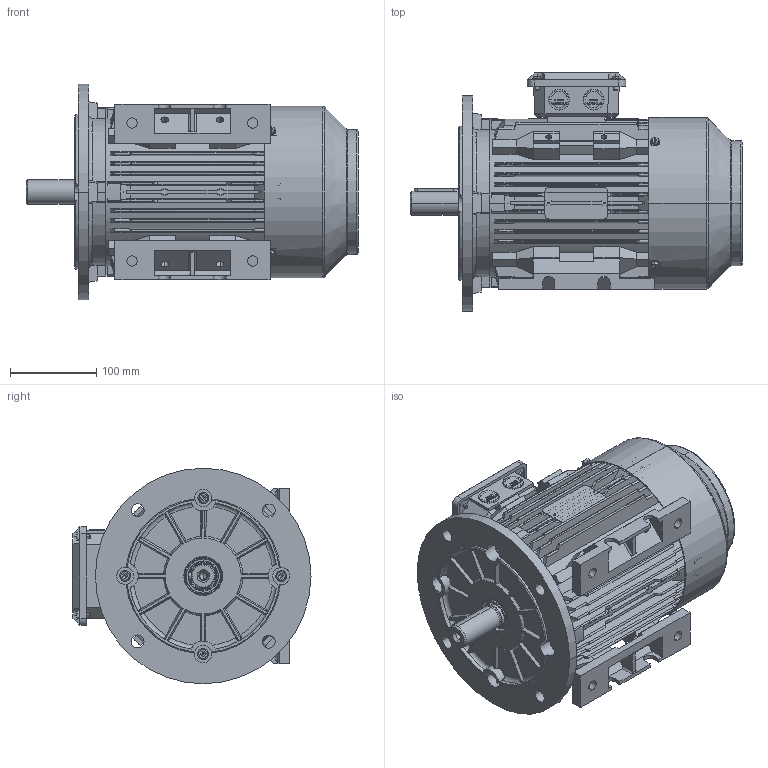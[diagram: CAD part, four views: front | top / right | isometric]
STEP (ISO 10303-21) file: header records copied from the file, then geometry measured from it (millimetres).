
FILE_DESCRIPTION (( 'STEP AP214' ), '1' );
FILE_NAME ('BCT3300.10H235.11.STEP', '2020-04-22T16:40:11', ( '' ), ( '' ), 'SwSTEP 2.0', 'SolidWorks 2019', '' );
FILE_SCHEMA (( 'AUTOMOTIVE_DESIGN' ));
Length unit declared in the file: millimetre
Products named in the file (1): BCT3300.10H235.11
Bounding box: 385 x 276 x 250 mm (x, y, z)
Volume: 3510048.6 mm3; surface area: 1135887.6 mm2
Topology: 34 solids, 34 shells, 2893 faces, 7661 edges, 4951 vertices
Faces by surface type: plane 1633, cylinder 719, cone 318, torus 134, bspline 89
Entity records: 108476 total; most frequent: CARTESIAN_POINT 37288, ORIENTED_EDGE 15226, DIRECTION 13807, EDGE_CURVE 7613, VERTEX_POINT 4951, AXIS2_PLACEMENT_3D 4628, LINE 4551, VECTOR 4551
